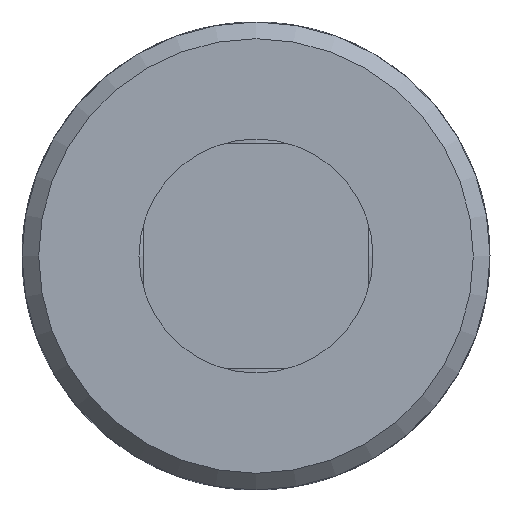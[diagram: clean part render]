
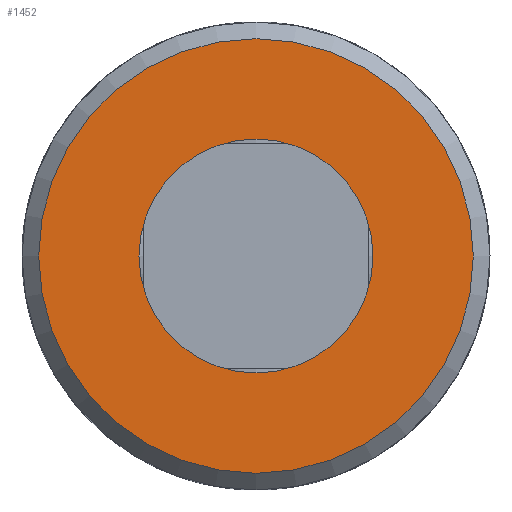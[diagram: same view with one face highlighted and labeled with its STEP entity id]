
A CAD part, front view. The second image highlights one B-rep face of the part: STEP entity #1452.
In plain terms, the highlighted planar face has unit normal (0, -1, 0).
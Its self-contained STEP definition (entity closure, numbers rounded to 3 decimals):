
#279=PLANE('',#1603);
#328=FACE_BOUND('',#537,.T.);
#406=FACE_OUTER_BOUND('',#536,.T.);
#536=EDGE_LOOP('',(#1267));
#537=EDGE_LOOP('',(#1268));
#620=CIRCLE('',#1598,7.);
#622=CIRCLE('',#1601,13.);
#744=VERTEX_POINT('',#2835);
#746=VERTEX_POINT('',#2840);
#923=EDGE_CURVE('',#744,#744,#620,.T.);
#925=EDGE_CURVE('',#746,#746,#622,.T.);
#1267=ORIENTED_EDGE('',*,*,#925,.F.);
#1268=ORIENTED_EDGE('',*,*,#923,.T.);
#1452=ADVANCED_FACE('',(#406,#328),#279,.F.);
#1598=AXIS2_PLACEMENT_3D('',#2836,#1924,#1925);
#1601=AXIS2_PLACEMENT_3D('',#2841,#1930,#1931);
#1603=AXIS2_PLACEMENT_3D('',#3017,#1938,#1939);
#1924=DIRECTION('center_axis',(0.,1.,0.));
#1925=DIRECTION('ref_axis',(-1.,0.,0.));
#1930=DIRECTION('center_axis',(0.,1.,0.));
#1931=DIRECTION('ref_axis',(1.,0.,0.));
#1938=DIRECTION('center_axis',(0.,1.,0.));
#1939=DIRECTION('ref_axis',(0.,0.,1.));
#2835=CARTESIAN_POINT('',(7.,-36.5,0.));
#2836=CARTESIAN_POINT('Origin',(0.,-36.5,0.));
#2840=CARTESIAN_POINT('',(-13.,-36.5,0.));
#2841=CARTESIAN_POINT('Origin',(0.,-36.5,0.));
#3017=CARTESIAN_POINT('Origin',(0.,-36.5,0.));
